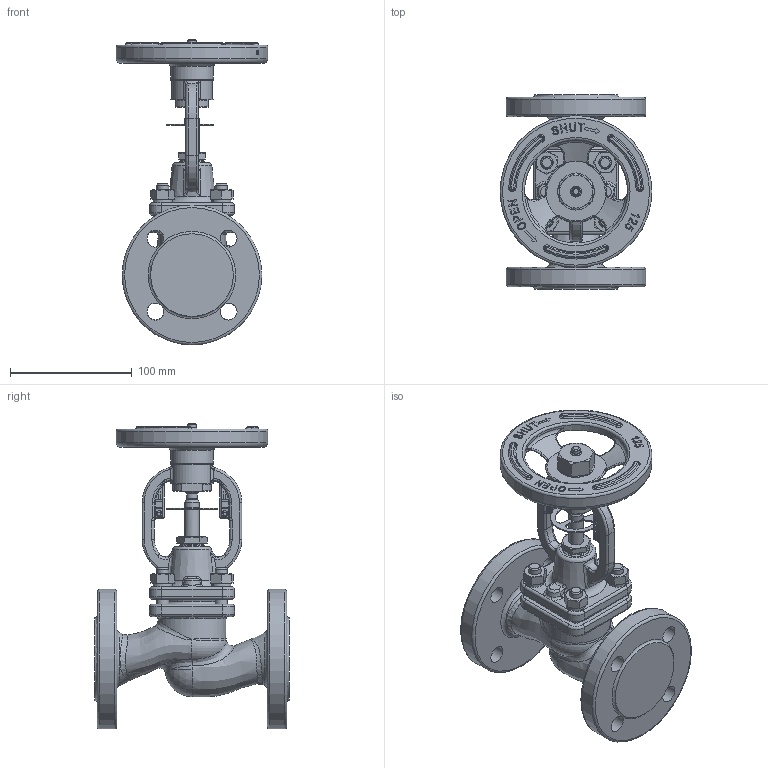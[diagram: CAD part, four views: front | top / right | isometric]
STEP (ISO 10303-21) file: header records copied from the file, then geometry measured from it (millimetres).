
FILE_DESCRIPTION(/* description */ (''),/* implementation_level */ '2;1');
FILE_NAME(/* name */ 'ZV226E_DN25_PN40.stp',/* time_stamp */ '2014-09-30T06:35:54+02:00',/* author */ (''),/* organization */ (''),/* preprocessor_version */ 'ST-DEVELOPER v15',/* originating_system */ 'SIEMENS PLM Software NX 8.5',/* authorisation */ '');
FILE_SCHEMA (('AP203_CONFIGURATION_CONTROLLED_3D_DESIGN_OF_MECHANICAL_PARTS_AND_ASSEMBLIES_MIM_LF { 1 0 10303 403 2 1 2}'));
Length unit declared in the file: millimetre
Products named in the file (1): adam0F487721p59h
Bounding box: 125 x 160 x 251.7 mm (x, y, z)
Volume: 814257.2 mm3; surface area: 152486.6 mm2
Topology: 1 solids, 1 shells, 860 faces, 2172 edges, 1319 vertices
Faces by surface type: plane 320, cylinder 165, torus 126, bspline 125, cone 97, extrusion 22, sphere 5
Full cylindrical faces by diameter (mm): 3 x4, 4 x1, 5 x4, 7 x1, 9 x2, 10 x12, 12 x3, 14 x8, 19.7 x1, 22 x1, 24 x1, 25 x1, 30 x1, 30.2 x1, 35 x3, 48 x1, 56 x1, 85 x1, 88 x1, 107 x1, 115 x2, 122 x1, 125 x1
Entity records: 36139 total; most frequent: CARTESIAN_POINT 17503, ORIENTED_EDGE 3958, DIRECTION 3551, EDGE_CURVE 1979, AXIS2_PLACEMENT_3D 1476, VERTEX_POINT 1255, EDGE_LOOP 1062, ADVANCED_FACE 860
